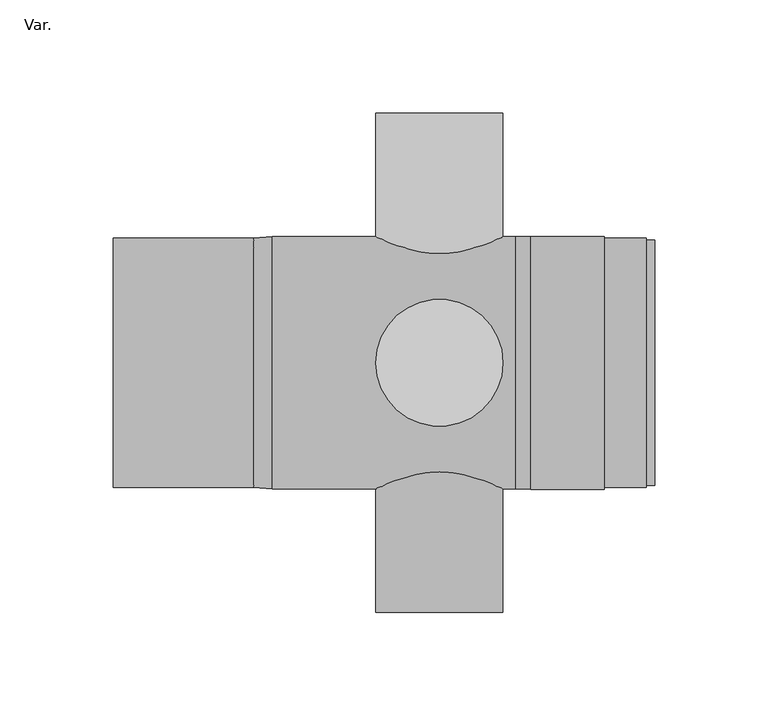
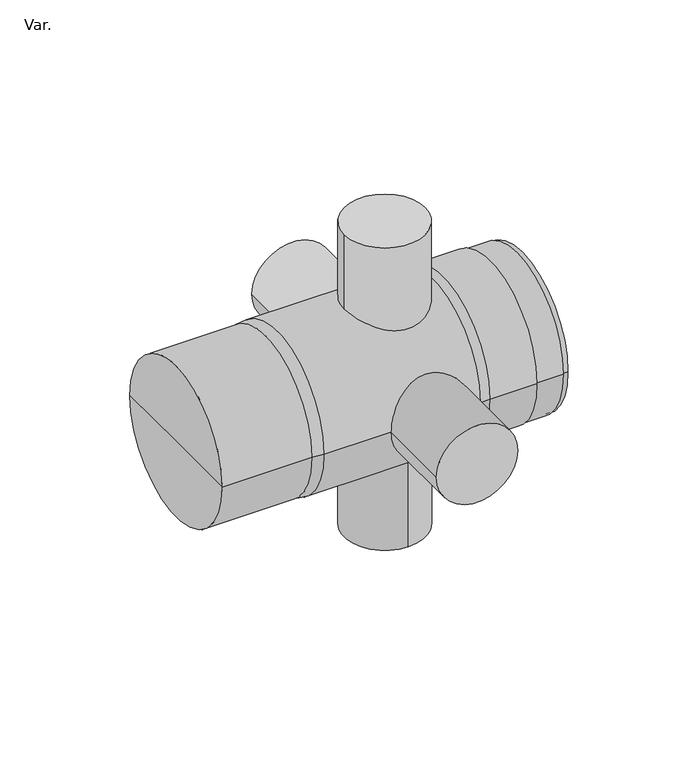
"""IFC4 building model written with IfcOpenShell, lengths in millimetres: pipe fitting geometry, PIF_HDPE 4-way riser_Akatherm : Var.."""

from ifc_helpers import new_model, si_unit, point, frame, origin, origin_with_axes, origin_2d, place, context, project, spatial, polyline, circle_curve, trimmed, segment, composite_curve, outline, extrude, source, transform, mapped, element, save
from ifc_brep_helpers import plane_surface, cylinder_surface, revolved_surface, advanced_brep


def var_1fbc9df2(model_context):
    return source(origin(), model_context, "Body", "SolidModel", [
        advanced_brep(
        [(91.2, -54.2, 0.0), (91.2, 54.2, 0.0), (94.9, 54.2, 0.0), (94.9, -54.2, 0.0), (91.2, -55.0, 0.0), (91.2, 55.0, 0.0), (72.6, -55.0, 0.0), (72.6, 55.0, 0.0), (72.6, -55.8, 0.0), (72.6, 55.8, 0.0), (40.3, -55.8, 0.0), (40.3, 55.8, 0.0), (-73.8, -55.75, 0.0), (-73.8, 55.75, 0.0), (33.5, 55.75, 0.0), (33.5, -55.75, 0.0), (-81.8, -55.0, 0.0), (-81.8, 55.0, 0.0), (-143.8, -55.0, 0.0), (-143.8, 55.0, 0.0), (-143.8, 0.0, 0.0), (94.9, 0.0, 0.0)],
        [
            (0, 1, circle_curve(frame((91.2, 0.0, 0.0), z_axis=(1.0, 0.0, 0.0), x_axis=(0.0, 1.0, 0.0)), 54.2)),
            (1, 2),
            (2, 3, circle_curve(frame((94.9, 0.0, 0.0), z_axis=(-1.0, 0.0, 0.0), x_axis=(0.0, 1.0, 0.0)), 54.2)),
            (3, 0),
            (1, 0, circle_curve(frame((91.2, 0.0, 0.0), z_axis=(1.0, 0.0, 0.0), x_axis=(0.0, 1.0, 0.0)), 54.2)),
            (3, 2, circle_curve(frame((94.9, 0.0, 0.0), z_axis=(-1.0, 0.0, 0.0), x_axis=(0.0, 1.0, 0.0)), 54.2)),
            (4, 5, circle_curve(frame((91.2, 0.0, 0.0), z_axis=(1.0, 0.0, 0.0), x_axis=(0.0, 1.0, 0.0)), 55.0)),
            (5, 1),
            (0, 4),
            (5, 4, circle_curve(frame((91.2, 0.0, 0.0), z_axis=(1.0, 0.0, 0.0), x_axis=(0.0, 1.0, 0.0)), 55.0)),
            (6, 7, circle_curve(frame((72.6, 0.0, 0.0), z_axis=(1.0, 0.0, 0.0), x_axis=(0.0, 1.0, 0.0)), 55.0)),
            (7, 5),
            (4, 6),
            (7, 6, circle_curve(frame((72.6, 0.0, 0.0), z_axis=(1.0, 0.0, 0.0), x_axis=(0.0, 1.0, 0.0)), 55.0)),
            (8, 9, circle_curve(frame((72.6, 0.0, 0.0), z_axis=(1.0, 0.0, 0.0), x_axis=(0.0, 1.0, 0.0)), 55.8)),
            (9, 7),
            (6, 8),
            (9, 8, circle_curve(frame((72.6, 0.0, 0.0), z_axis=(1.0, 0.0, 0.0), x_axis=(0.0, 1.0, 0.0)), 55.8)),
            (10, 11, circle_curve(frame((40.3, 0.0, 0.0), z_axis=(1.0, 0.0, 0.0), x_axis=(0.0, 1.0, 0.0)), 55.8)),
            (11, 9),
            (8, 10),
            (11, 10, circle_curve(frame((40.3, 0.0, 0.0), z_axis=(1.0, 0.0, 0.0), x_axis=(0.0, 1.0, 0.0)), 55.8)),
            (12, 13, circle_curve(frame((-73.8, 0.0, 0.0), z_axis=(1.0, 0.0, 0.0), x_axis=(0.0, 1.0, 0.0)), 55.75)),
            (13, 14),
            (14, 15, circle_curve(frame((33.5, 0.0, 0.0), z_axis=(-1.0, 0.0, 0.0), x_axis=(0.0, 1.0, 0.0)), 55.75)),
            (15, 12),
            (13, 12, circle_curve(frame((-73.8, 0.0, 0.0), z_axis=(1.0, 0.0, 0.0), x_axis=(0.0, 1.0, 0.0)), 55.75)),
            (15, 14, circle_curve(frame((33.5, 0.0, 0.0), z_axis=(-1.0, 0.0, 0.0), x_axis=(0.0, 1.0, 0.0)), 55.75)),
            (16, 17, circle_curve(frame((-81.8, 0.0, 0.0), z_axis=(1.0, 0.0, 0.0), x_axis=(0.0, 1.0, 0.0)), 55.0)),
            (17, 13),
            (12, 16),
            (17, 16, circle_curve(frame((-81.8, 0.0, 0.0), z_axis=(1.0, 0.0, 0.0), x_axis=(0.0, 1.0, 0.0)), 55.0)),
            (18, 19, circle_curve(frame((-143.8, 0.0, 0.0), z_axis=(1.0, 0.0, 0.0), x_axis=(0.0, 1.0, 0.0)), 55.0)),
            (19, 17),
            (16, 18),
            (19, 18, circle_curve(frame((-143.8, 0.0, 0.0), z_axis=(1.0, 0.0, 0.0), x_axis=(0.0, 1.0, 0.0)), 55.0)),
            (20, 19),
            (18, 20),
            (2, 21),
            (21, 3),
            (14, 11),
            (10, 15),
        ],
        [
            cylinder_surface(frame((59.9, 0.0, 0.0), z_axis=(-1.0, 0.0, 0.0), x_axis=(0.0, 1.0, 0.0)), 54.2),
            plane_surface(frame((91.2, 0.0, 0.0), z_axis=(1.0, 0.0, 0.0), x_axis=(0.0, 1.0, 0.0))),
            cylinder_surface(frame((59.9, 0.0, 0.0), z_axis=(-1.0, 0.0, 0.0), x_axis=(0.0, 1.0, 0.0)), 55.0),
            plane_surface(frame((72.6, 0.0, 0.0), z_axis=(1.0, 0.0, 0.0), x_axis=(0.0, 1.0, 0.0))),
            cylinder_surface(frame((59.9, 0.0, 0.0), z_axis=(-1.0, 0.0, 0.0), x_axis=(0.0, 1.0, 0.0)), 55.8),
            cylinder_surface(frame((59.9, 0.0, 0.0), z_axis=(-1.0, 0.0, 0.0), x_axis=(0.0, 1.0, 0.0)), 55.75),
            revolved_surface(polyline([(-73.8, 55.75, 0.0), (-81.8, 55.0, 0.0)]), (59.9, 0.0, 0.0), (-1.0, 0.0, 0.0)),
            plane_surface(frame((-143.8, 0.0, 0.0), z_axis=(-1.0, 0.0, 0.0), x_axis=(0.0, 1.0, 0.0))),
            plane_surface(frame((94.9, 0.0, 0.0), z_axis=(1.0, 0.0, 0.0), x_axis=(0.0, 1.0, 0.0))),
            revolved_surface(polyline([(40.3, 55.8, 0.0), (33.5, 55.75, 0.0)]), (59.9, 0.0, 0.0), (-1.0, 0.0, 0.0)),
        ],
        [
            (0, [[1, 2, 3, 4]]),
            (0, [[5, -4, 6, -2]]),
            (1, [[7, 8, -1, 9]]),
            (1, [[10, -9, -5, -8]]),
            (2, [[11, 12, -7, 13]]),
            (2, [[14, -13, -10, -12]]),
            (3, [[15, 16, -11, 17]]),
            (3, [[18, -17, -14, -16]]),
            (4, [[19, 20, -15, 21]]),
            (4, [[22, -21, -18, -20]]),
            (5, [[23, 24, 25, 26]]),
            (5, [[27, -26, 28, -24]]),
            (6, [[29, 30, -23, 31]]),
            (6, [[32, -31, -27, -30]]),
            (2, [[33, 34, -29, 35]]),
            (2, [[36, -35, -32, -34]]),
            (7, [[37, -33, 38]]),
            (7, [[-38, -36, -37]]),
            (8, [[-3, 39, 40]]),
            (8, [[-6, -40, -39]]),
            (9, [[-25, 41, -19, 42]]),
            (9, [[-28, -42, -22, -41]]),
        ],
    ),
        extrude(outline(composite_curve([segment(trimmed(circle_curve(origin_2d(), 28.0), [point((0.0, 28.0))], [point((0.0, -28.0))], False, "CARTESIAN"), True, "CONTINUOUS"), segment(trimmed(circle_curve(origin_2d(), 28.0), [point((0.0, -28.0))], [point((0.0, 28.0))], False, "CARTESIAN"), True, "CONTINUOUS")], self_intersect=False)), frame((0.0, 0.0, -110.1), z_axis=(0.0, 0.0, 1.0), x_axis=(1.0, 0.0, 0.0)), (0.0, 0.0, 1.0), 110.1),
        extrude(outline(composite_curve([segment(trimmed(circle_curve(origin_2d(), 28.0), [point((28.0, 0.0))], [point((-28.0, 0.0))], False, "CARTESIAN"), True, "CONTINUOUS"), segment(trimmed(circle_curve(origin_2d(), 28.0), [point((-28.0, 0.0))], [point((28.0, 0.0))], False, "CARTESIAN"), True, "CONTINUOUS")], self_intersect=False)), origin_with_axes(), (0.0, 0.0, 1.0), 110.1),
        extrude(outline(composite_curve([segment(trimmed(circle_curve(origin_2d(), 28.0), [point((0.0, -28.0))], [point((0.0, 28.0))], False, "CARTESIAN"), True, "CONTINUOUS"), segment(trimmed(circle_curve(origin_2d(), 28.0), [point((0.0, 28.0))], [point((0.0, -28.0))], False, "CARTESIAN"), True, "CONTINUOUS")], self_intersect=False)), frame((0.0, -110.1, 0.0), z_axis=(0.0, 1.0, 0.0), x_axis=(0.0, 0.0, 1.0)), (0.0, 0.0, 1.0), 110.1),
        extrude(outline(composite_curve([segment(trimmed(circle_curve(origin_2d(), 28.0), [point((0.0, 28.0))], [point((0.0, -28.0))], False, "CARTESIAN"), True, "CONTINUOUS"), segment(trimmed(circle_curve(origin_2d(), 28.0), [point((0.0, -28.0))], [point((0.0, 28.0))], False, "CARTESIAN"), True, "CONTINUOUS")], self_intersect=False)), frame((0.0, 0.0, 0.0), z_axis=(0.0, 1.0, 0.0), x_axis=(0.0, 0.0, 1.0)), (0.0, 0.0, 1.0), 110.1),
    ])


if __name__ == "__main__":
    model = new_model("IFC4")
    model_context = context("Model", 3, world=origin())
    ifc_project = project(units=[si_unit("LENGTHUNIT", "METRE", prefix="MILLI")], contexts=[model_context])
    site = spatial("IfcSite", under=ifc_project)
    building = spatial("IfcBuilding", under=site)
    placement = place(None, origin())
    var_shape = var_1fbc9df2(model_context)
    element("IfcPipeFitting", 1, ObjectType="PIF_HDPE 4-way riser_Akatherm : Var.", at=placement, inside=building, context=model_context, shape_type="MappedRepresentation", body=[
        mapped(var_shape, transform((0.0, 0.0, 0.0), x_axis=(1.0, 0.0, 0.0), y_axis=(0.0, 1.0, 0.0), z_axis=(0.0, 0.0, 1.0))),
    ])
    save(model, "model.ifc")
